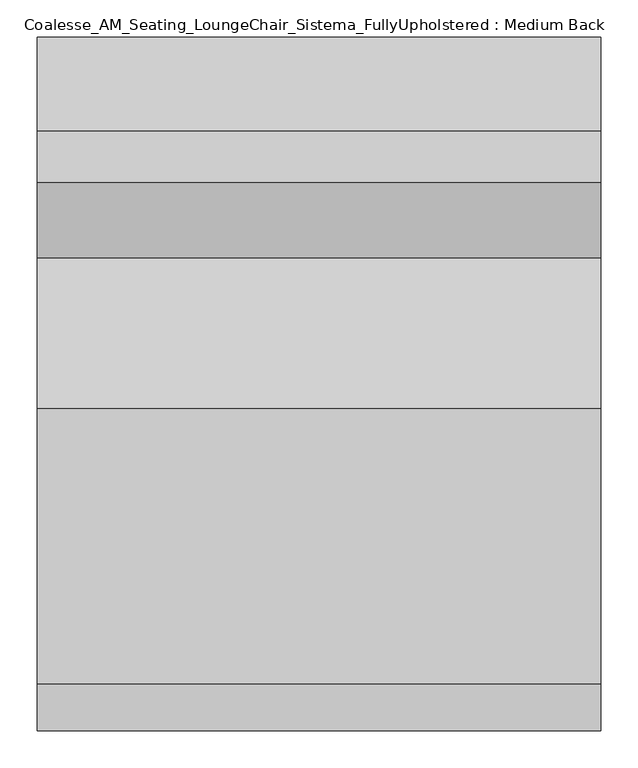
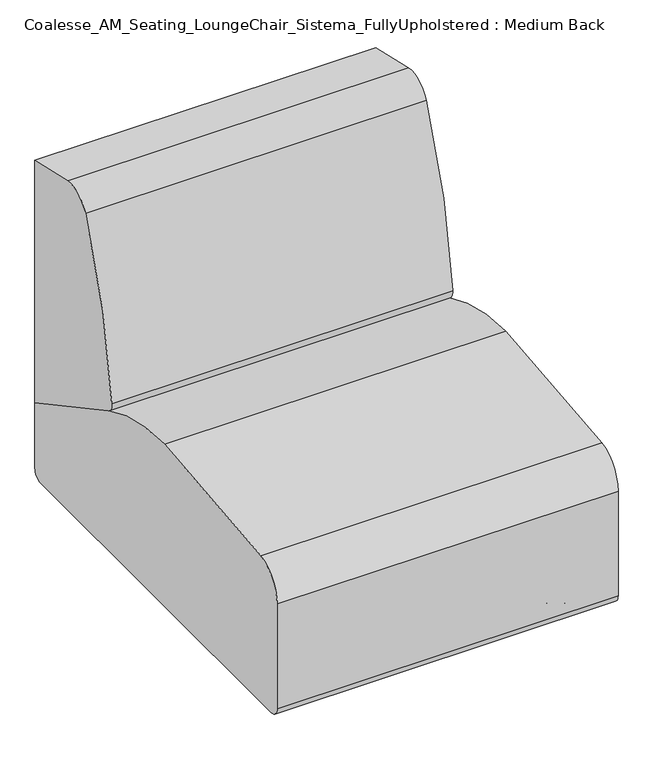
"""IFC4 building model written with IfcOpenShell, lengths in millimetres: furniture geometry, Coalesse_AM_Seating_LoungeChair_Sistema_FullyUpholstered : Medium Back."""

from ifc_helpers import new_model, si_unit, point, frame, frame_2d, origin, place, context, project, spatial, polyline, circle_curve, ellipse_curve, trimmed, segment, composite_curve, outline, extrude, source, transform, mapped, element, save
from ifc_brep_helpers import plane_surface, cylinder_surface, revolved_surface, advanced_brep


def coalesse_am_seating_loungechair_sistema_fullyupholstered_44f18496(model_context):
    return source(origin(), model_context, "Body", "SolidModel", [
        advanced_brep(
        [(-269.1276038, 379.5141881, 32.0111214), (-305.4012134, 379.5141881, 32.0111214), (-305.4012134, 379.5141881, 16.5557542), (-269.1276038, 379.5141881, 16.5557542), (-306.6948939, 379.5141881, 14.0167632), (-267.8339233, 379.5141881, 14.0167632), (-311.0668802, 379.5141881, 10.8824382), (-263.4619371, 379.5141881, 10.8824382), (-312.2530965, 379.5141881, 8.4680454), (-262.2757207, 379.5141881, 8.4680454), (-312.2530965, 379.5141881, 3.1081764), (-262.2757207, 379.5141881, 3.1081764), (-308.6567219, 379.5141881, 0.0), (-265.8720953, 379.5141881, 0.0), (-287.2644086, 379.5141881, 0.0), (-287.2644086, 379.5141881, 34.4679682), (-294.3791876, 379.5141881, 34.4679682), (-280.1496296, 379.5141881, 34.4679682), (-294.3791876, 379.5141881, 32.0111214), (-280.1496296, 379.5141881, 32.0111214)],
        [
            (0, 1, circle_curve(frame((-287.2644086, 379.5141881, 32.0111214), z_axis=(0.0, 0.0, -1.0), x_axis=(-1.0, 0.0, 0.0)), 18.1368048)),
            (1, 2),
            (2, 3, circle_curve(frame((-287.2644086, 379.5141881, 16.5557542), z_axis=(0.0, 0.0, 1.0), x_axis=(-1.0, 0.0, 0.0)), 18.1368048)),
            (3, 0),
            (1, 0, circle_curve(frame((-287.2644086, 379.5141881, 32.0111214), z_axis=(0.0, 0.0, -1.0), x_axis=(-1.0, 0.0, 0.0)), 18.1368048)),
            (3, 2, circle_curve(frame((-287.2644086, 379.5141881, 16.5557542), z_axis=(0.0, 0.0, 1.0), x_axis=(-1.0, 0.0, 0.0)), 18.1368048)),
            (2, 4),
            (4, 5, circle_curve(frame((-287.2644086, 379.5141881, 14.0167632), z_axis=(0.0, 0.0, 1.0), x_axis=(-1.0, 0.0, 0.0)), 19.4304853)),
            (5, 3),
            (5, 4, circle_curve(frame((-287.2644086, 379.5141881, 14.0167632), z_axis=(0.0, 0.0, 1.0), x_axis=(-1.0, 0.0, 0.0)), 19.4304853)),
            (4, 6, circle_curve(frame((-264.7129236, 379.5141881, -49.1591113), z_axis=(0.0, -1.0, 0.0), x_axis=(1.0, 0.0, 0.0)), 75.8529957)),
            (6, 7, circle_curve(frame((-287.2644086, 379.5141881, 10.8824382), z_axis=(0.0, 0.0, 1.0), x_axis=(-1.0, 0.0, 0.0)), 23.8024715)),
            (7, 5, circle_curve(frame((-309.8158936, 379.5141881, -49.1591113), z_axis=(0.0, -1.0, 0.0), x_axis=(-1.0, 0.0, 0.0)), 75.8529957)),
            (7, 6, circle_curve(frame((-287.2644086, 379.5141881, 10.8824382), z_axis=(0.0, 0.0, 1.0), x_axis=(-1.0, 0.0, 0.0)), 23.8024715)),
            (6, 8, circle_curve(frame((-309.2028933, 379.5141881, 8.4680454), z_axis=(0.0, -1.0, 0.0), x_axis=(1.0, 0.0, 0.0)), 3.0502032)),
            (8, 9, circle_curve(frame((-287.2644086, 379.5141881, 8.4680454), z_axis=(0.0, 0.0, 1.0), x_axis=(-1.0, 0.0, 0.0)), 24.9886879)),
            (9, 7, circle_curve(frame((-265.3259239, 379.5141881, 8.4680454), z_axis=(0.0, -1.0, 0.0), x_axis=(-1.0, 0.0, 0.0)), 3.0502032)),
            (9, 8, circle_curve(frame((-287.2644086, 379.5141881, 8.4680454), z_axis=(0.0, 0.0, 1.0), x_axis=(-1.0, 0.0, 0.0)), 24.9886879)),
            (8, 10),
            (10, 11, circle_curve(frame((-287.2644086, 379.5141881, 3.1081764), z_axis=(0.0, 0.0, 1.0), x_axis=(-1.0, 0.0, 0.0)), 24.9886879)),
            (11, 9),
            (11, 10, circle_curve(frame((-287.2644086, 379.5141881, 3.1081764), z_axis=(0.0, 0.0, 1.0), x_axis=(-1.0, 0.0, 0.0)), 24.9886879)),
            (10, 12, circle_curve(frame((-308.6567219, 379.5141881, 3.634715), z_axis=(0.0, -1.0, 0.0), x_axis=(1.0, 0.0, 0.0)), 3.634715)),
            (12, 13, circle_curve(frame((-287.2644086, 379.5141881, 0.0), z_axis=(0.0, 0.0, 1.0), x_axis=(-1.0, 0.0, 0.0)), 21.3923133)),
            (13, 11, circle_curve(frame((-265.8720953, 379.5141881, 3.634715), z_axis=(0.0, -1.0, 0.0), x_axis=(-1.0, 0.0, 0.0)), 3.634715)),
            (13, 12, circle_curve(frame((-287.2644086, 379.5141881, 0.0), z_axis=(0.0, 0.0, 1.0), x_axis=(-1.0, 0.0, 0.0)), 21.3923133)),
            (12, 14),
            (14, 13),
            (15, 16),
            (16, 17, circle_curve(frame((-287.2644086, 379.5141881, 34.4679682), z_axis=(0.0, 0.0, 1.0), x_axis=(-1.0, 0.0, 0.0)), 7.114779)),
            (17, 15),
            (17, 16, circle_curve(frame((-287.2644086, 379.5141881, 34.4679682), z_axis=(0.0, 0.0, 1.0), x_axis=(-1.0, 0.0, 0.0)), 7.114779)),
            (16, 18),
            (18, 19, circle_curve(frame((-287.2644086, 379.5141881, 32.0111214), z_axis=(0.0, 0.0, 1.0), x_axis=(-1.0, 0.0, 0.0)), 7.114779)),
            (19, 17),
            (19, 18, circle_curve(frame((-287.2644086, 379.5141881, 32.0111214), z_axis=(0.0, 0.0, 1.0), x_axis=(-1.0, 0.0, 0.0)), 7.114779)),
            (18, 1),
            (0, 19),
        ],
        [
            cylinder_surface(frame((-287.2644086, 379.5141881, 22.0491407), z_axis=(0.0, 0.0, 1.0), x_axis=(-1.0, 0.0, 0.0)), 18.1368048),
            revolved_surface(polyline([(-306.6948939, 379.5141881, 14.0167632), (-305.4012134, 379.5141881, 16.5557542)]), (-287.2644086, 379.5141881, 22.0491407), (0.0, 0.0, 1.0)),
            revolved_surface(trimmed(ellipse_curve(frame((-264.7129236, 379.5141881, -49.1591113), z_axis=(0.0, 1.0, 0.0), x_axis=(1.0, 0.0, 0.0)), 75.8529957, 75.8529957), [point((-311.0668802, 379.5141881, 10.8824382))], [point((-306.6948939, 379.5141881, 14.0167632))], True, "CARTESIAN"), (-287.2644086, 379.5141881, 22.0491407), (0.0, 0.0, 1.0)),
            revolved_surface(trimmed(ellipse_curve(frame((-309.2028933, 379.5141881, 8.4680454), z_axis=(0.0, 1.0, 0.0), x_axis=(1.0, 0.0, 0.0)), 3.0502032, 3.0502032), [point((-312.2530965, 379.5141881, 8.4680454))], [point((-311.0668802, 379.5141881, 10.8824382))], True, "CARTESIAN"), (-287.2644086, 379.5141881, 22.0491407), (0.0, 0.0, 1.0)),
            cylinder_surface(frame((-287.2644086, 379.5141881, 22.0491407), z_axis=(0.0, 0.0, 1.0), x_axis=(-1.0, 0.0, 0.0)), 24.9886879),
            revolved_surface(trimmed(ellipse_curve(frame((-308.6567219, 379.5141881, 3.634715), z_axis=(0.0, 1.0, 0.0), x_axis=(1.0, 0.0, 0.0)), 3.634715, 3.634715), [point((-308.6567219, 379.5141881, 0.0))], [point((-312.2530965, 379.5141881, 3.1081764))], True, "CARTESIAN"), (-287.2644086, 379.5141881, 22.0491407), (0.0, 0.0, 1.0)),
            plane_surface(frame((-287.2644086, 379.5141881, 0.0), z_axis=(0.0, 0.0, -1.0), x_axis=(-1.0, 0.0, 0.0))),
            plane_surface(frame((-287.2644086, 379.5141881, 34.4679682), z_axis=(0.0, 0.0, 1.0), x_axis=(-1.0, 0.0, 0.0))),
            cylinder_surface(frame((-287.2644086, 379.5141881, 22.0491407), z_axis=(0.0, 0.0, 1.0), x_axis=(-1.0, 0.0, 0.0)), 7.114779),
            plane_surface(frame((-287.2644086, 379.5141881, 32.0111214), z_axis=(0.0, 0.0, 1.0), x_axis=(-1.0, 0.0, 0.0))),
        ],
        [
            (0, [[1, 2, 3, 4]]),
            (0, [[5, -4, 6, -2]]),
            (1, [[-3, 7, 8, 9]]),
            (1, [[-6, -9, 10, -7]]),
            (2, [[-8, 11, 12, 13]]),
            (2, [[-10, -13, 14, -11]]),
            (3, [[-12, 15, 16, 17]]),
            (3, [[-14, -17, 18, -15]]),
            (4, [[-16, 19, 20, 21]]),
            (4, [[-18, -21, 22, -19]]),
            (5, [[-20, 23, 24, 25]]),
            (5, [[-22, -25, 26, -23]]),
            (6, [[-24, 27, 28]]),
            (6, [[-26, -28, -27]]),
            (7, [[29, 30, 31]]),
            (7, [[-31, 32, -29]]),
            (8, [[-30, 33, 34, 35]]),
            (8, [[-32, -35, 36, -33]]),
            (9, [[-34, 37, -1, 38]]),
            (9, [[-36, -38, -5, -37]]),
        ],
    ),
        advanced_brep(
        [(269.1276038, 379.5141881, 16.5557542), (305.4012134, 379.5141881, 16.5557542), (305.4012134, 379.5141881, 32.0111214), (269.1276038, 379.5141881, 32.0111214), (267.8339233, 379.5141881, 14.0167632), (306.6948939, 379.5141881, 14.0167632), (263.4619371, 379.5141881, 10.8824382), (311.0668802, 379.5141881, 10.8824382), (262.2757207, 379.5141881, 8.4680454), (312.2530965, 379.5141881, 8.4680454), (262.2757207, 379.5141881, 3.1081764), (312.2530965, 379.5141881, 3.1081764), (265.8720953, 379.5141881, 0.0), (308.6567219, 379.5141881, 0.0), (287.2644086, 379.5141881, 0.0), (280.1496296, 379.5141881, 34.4679682), (294.3791876, 379.5141881, 34.4679682), (287.2644086, 379.5141881, 34.4679682), (280.1496296, 379.5141881, 32.0111214), (294.3791876, 379.5141881, 32.0111214)],
        [
            (0, 1, circle_curve(frame((287.2644086, 379.5141881, 16.5557542), z_axis=(0.0, 0.0, 1.0), x_axis=(1.0, 0.0, 0.0)), 18.1368048)),
            (1, 2),
            (2, 3, circle_curve(frame((287.2644086, 379.5141881, 32.0111214), z_axis=(0.0, 0.0, -1.0), x_axis=(1.0, 0.0, 0.0)), 18.1368048)),
            (3, 0),
            (1, 0, circle_curve(frame((287.2644086, 379.5141881, 16.5557542), z_axis=(0.0, 0.0, 1.0), x_axis=(1.0, 0.0, 0.0)), 18.1368048)),
            (3, 2, circle_curve(frame((287.2644086, 379.5141881, 32.0111214), z_axis=(0.0, 0.0, -1.0), x_axis=(1.0, 0.0, 0.0)), 18.1368048)),
            (4, 5, circle_curve(frame((287.2644086, 379.5141881, 14.0167632), z_axis=(0.0, 0.0, 1.0), x_axis=(1.0, 0.0, 0.0)), 19.4304853)),
            (5, 1),
            (0, 4),
            (5, 4, circle_curve(frame((287.2644086, 379.5141881, 14.0167632), z_axis=(0.0, 0.0, 1.0), x_axis=(1.0, 0.0, 0.0)), 19.4304853)),
            (6, 7, circle_curve(frame((287.2644086, 379.5141881, 10.8824382), z_axis=(0.0, 0.0, 1.0), x_axis=(1.0, 0.0, 0.0)), 23.8024715)),
            (7, 5, circle_curve(frame((264.7129236, 379.5141881, -49.1591113), z_axis=(0.0, -1.0, 0.0), x_axis=(-1.0, 0.0, 0.0)), 75.8529957)),
            (4, 6, circle_curve(frame((309.8158936, 379.5141881, -49.1591113), z_axis=(0.0, -1.0, 0.0), x_axis=(1.0, 0.0, 0.0)), 75.8529957)),
            (7, 6, circle_curve(frame((287.2644086, 379.5141881, 10.8824382), z_axis=(0.0, 0.0, 1.0), x_axis=(1.0, 0.0, 0.0)), 23.8024715)),
            (8, 9, circle_curve(frame((287.2644086, 379.5141881, 8.4680454), z_axis=(0.0, 0.0, 1.0), x_axis=(1.0, 0.0, 0.0)), 24.9886879)),
            (9, 7, circle_curve(frame((309.2028933, 379.5141881, 8.4680454), z_axis=(0.0, -1.0, 0.0), x_axis=(-1.0, 0.0, 0.0)), 3.0502032)),
            (6, 8, circle_curve(frame((265.3259239, 379.5141881, 8.4680454), z_axis=(0.0, -1.0, 0.0), x_axis=(1.0, 0.0, 0.0)), 3.0502032)),
            (9, 8, circle_curve(frame((287.2644086, 379.5141881, 8.4680454), z_axis=(0.0, 0.0, 1.0), x_axis=(1.0, 0.0, 0.0)), 24.9886879)),
            (10, 11, circle_curve(frame((287.2644086, 379.5141881, 3.1081764), z_axis=(0.0, 0.0, 1.0), x_axis=(1.0, 0.0, 0.0)), 24.9886879)),
            (11, 9),
            (8, 10),
            (11, 10, circle_curve(frame((287.2644086, 379.5141881, 3.1081764), z_axis=(0.0, 0.0, 1.0), x_axis=(1.0, 0.0, 0.0)), 24.9886879)),
            (12, 13, circle_curve(frame((287.2644086, 379.5141881, 0.0), z_axis=(0.0, 0.0, 1.0), x_axis=(1.0, 0.0, 0.0)), 21.3923133)),
            (13, 11, circle_curve(frame((308.6567219, 379.5141881, 3.634715), z_axis=(0.0, -1.0, 0.0), x_axis=(-1.0, 0.0, 0.0)), 3.634715)),
            (10, 12, circle_curve(frame((265.8720953, 379.5141881, 3.634715), z_axis=(0.0, -1.0, 0.0), x_axis=(1.0, 0.0, 0.0)), 3.634715)),
            (13, 12, circle_curve(frame((287.2644086, 379.5141881, 0.0), z_axis=(0.0, 0.0, 1.0), x_axis=(1.0, 0.0, 0.0)), 21.3923133)),
            (14, 13),
            (12, 14),
            (15, 16, circle_curve(frame((287.2644086, 379.5141881, 34.4679682), z_axis=(0.0, 0.0, 1.0), x_axis=(1.0, 0.0, 0.0)), 7.114779)),
            (16, 17),
            (17, 15),
            (16, 15, circle_curve(frame((287.2644086, 379.5141881, 34.4679682), z_axis=(0.0, 0.0, 1.0), x_axis=(1.0, 0.0, 0.0)), 7.114779)),
            (18, 19, circle_curve(frame((287.2644086, 379.5141881, 32.0111214), z_axis=(0.0, 0.0, 1.0), x_axis=(1.0, 0.0, 0.0)), 7.114779)),
            (19, 16),
            (15, 18),
            (19, 18, circle_curve(frame((287.2644086, 379.5141881, 32.0111214), z_axis=(0.0, 0.0, 1.0), x_axis=(1.0, 0.0, 0.0)), 7.114779)),
            (2, 19),
            (18, 3),
        ],
        [
            cylinder_surface(frame((287.2644086, 379.5141881, 22.0491407), z_axis=(0.0, 0.0, -1.0), x_axis=(1.0, 0.0, 0.0)), 18.1368048),
            revolved_surface(polyline([(305.4012134, 379.5141881, 16.5557542), (306.6948939, 379.5141881, 14.0167632)]), (287.2644086, 379.5141881, 22.0491407), (0.0, 0.0, -1.0)),
            revolved_surface(trimmed(ellipse_curve(frame((264.7129236, 379.5141881, -49.1591113), z_axis=(0.0, 1.0, 0.0), x_axis=(-1.0, 0.0, 0.0)), 75.8529957, 75.8529957), [point((306.6948939, 379.5141881, 14.0167632))], [point((311.0668802, 379.5141881, 10.8824382))], True, "CARTESIAN"), (287.2644086, 379.5141881, 22.0491407), (0.0, 0.0, -1.0)),
            revolved_surface(trimmed(ellipse_curve(frame((309.2028933, 379.5141881, 8.4680454), z_axis=(0.0, 1.0, 0.0), x_axis=(-1.0, 0.0, 0.0)), 3.0502032, 3.0502032), [point((311.0668802, 379.5141881, 10.8824382))], [point((312.2530965, 379.5141881, 8.4680454))], True, "CARTESIAN"), (287.2644086, 379.5141881, 22.0491407), (0.0, 0.0, -1.0)),
            cylinder_surface(frame((287.2644086, 379.5141881, 22.0491407), z_axis=(0.0, 0.0, -1.0), x_axis=(1.0, 0.0, 0.0)), 24.9886879),
            revolved_surface(trimmed(ellipse_curve(frame((308.6567219, 379.5141881, 3.634715), z_axis=(0.0, 1.0, 0.0), x_axis=(-1.0, 0.0, 0.0)), 3.634715, 3.634715), [point((312.2530965, 379.5141881, 3.1081764))], [point((308.6567219, 379.5141881, 0.0))], True, "CARTESIAN"), (287.2644086, 379.5141881, 22.0491407), (0.0, 0.0, -1.0)),
            plane_surface(frame((287.2644086, 379.5141881, 0.0), z_axis=(0.0, 0.0, -1.0), x_axis=(1.0, 0.0, 0.0))),
            plane_surface(frame((287.2644086, 379.5141881, 34.4679682), z_axis=(0.0, 0.0, 1.0), x_axis=(1.0, 0.0, 0.0))),
            cylinder_surface(frame((287.2644086, 379.5141881, 22.0491407), z_axis=(0.0, 0.0, -1.0), x_axis=(1.0, 0.0, 0.0)), 7.114779),
            plane_surface(frame((287.2644086, 379.5141881, 32.0111214), z_axis=(0.0, 0.0, 1.0), x_axis=(1.0, 0.0, 0.0))),
        ],
        [
            (0, [[1, 2, 3, 4]]),
            (0, [[5, -4, 6, -2]]),
            (1, [[7, 8, -1, 9]]),
            (1, [[10, -9, -5, -8]]),
            (2, [[11, 12, -7, 13]]),
            (2, [[14, -13, -10, -12]]),
            (3, [[15, 16, -11, 17]]),
            (3, [[18, -17, -14, -16]]),
            (4, [[19, 20, -15, 21]]),
            (4, [[22, -21, -18, -20]]),
            (5, [[23, 24, -19, 25]]),
            (5, [[26, -25, -22, -24]]),
            (6, [[27, -23, 28]]),
            (6, [[-28, -26, -27]]),
            (7, [[29, 30, 31]]),
            (7, [[32, -31, -30]]),
            (8, [[33, 34, -29, 35]]),
            (8, [[36, -35, -32, -34]]),
            (9, [[-3, 37, -33, 38]]),
            (9, [[-6, -38, -36, -37]]),
        ],
    ),
        advanced_brep(
        [(269.1276038, -379.5141881, 32.0111214), (305.4012134, -379.5141881, 32.0111214), (305.4012134, -379.5141881, 16.5557542), (269.1276038, -379.5141881, 16.5557542), (306.6948939, -379.5141881, 14.0167632), (267.8339233, -379.5141881, 14.0167632), (311.0668802, -379.5141881, 10.8824382), (263.4619371, -379.5141881, 10.8824382), (312.2530965, -379.5141881, 8.4680454), (262.2757207, -379.5141881, 8.4680454), (312.2530965, -379.5141881, 3.1081764), (262.2757207, -379.5141881, 3.1081764), (308.6567219, -379.5141881, 0.0), (265.8720953, -379.5141881, 0.0), (287.2644086, -379.5141881, 0.0), (287.2644086, -379.5141881, 34.4679682), (294.3791876, -379.5141881, 34.4679682), (280.1496296, -379.5141881, 34.4679682), (294.3791876, -379.5141881, 32.0111214), (280.1496296, -379.5141881, 32.0111214)],
        [
            (0, 1, circle_curve(frame((287.2644086, -379.5141881, 32.0111214), z_axis=(0.0, 0.0, -1.0), x_axis=(1.0, 0.0, 0.0)), 18.1368048)),
            (1, 2),
            (2, 3, circle_curve(frame((287.2644086, -379.5141881, 16.5557542), z_axis=(0.0, 0.0, 1.0), x_axis=(1.0, 0.0, 0.0)), 18.1368048)),
            (3, 0),
            (1, 0, circle_curve(frame((287.2644086, -379.5141881, 32.0111214), z_axis=(0.0, 0.0, -1.0), x_axis=(1.0, 0.0, 0.0)), 18.1368048)),
            (3, 2, circle_curve(frame((287.2644086, -379.5141881, 16.5557542), z_axis=(0.0, 0.0, 1.0), x_axis=(1.0, 0.0, 0.0)), 18.1368048)),
            (2, 4),
            (4, 5, circle_curve(frame((287.2644086, -379.5141881, 14.0167632), z_axis=(0.0, 0.0, 1.0), x_axis=(1.0, 0.0, 0.0)), 19.4304853)),
            (5, 3),
            (5, 4, circle_curve(frame((287.2644086, -379.5141881, 14.0167632), z_axis=(0.0, 0.0, 1.0), x_axis=(1.0, 0.0, 0.0)), 19.4304853)),
            (4, 6, circle_curve(frame((264.7129236, -379.5141881, -49.1591113), z_axis=(0.0, 1.0, 0.0), x_axis=(-1.0, 0.0, 0.0)), 75.8529957)),
            (6, 7, circle_curve(frame((287.2644086, -379.5141881, 10.8824382), z_axis=(0.0, 0.0, 1.0), x_axis=(1.0, 0.0, 0.0)), 23.8024715)),
            (7, 5, circle_curve(frame((309.8158936, -379.5141881, -49.1591113), z_axis=(0.0, 1.0, 0.0), x_axis=(1.0, 0.0, 0.0)), 75.8529957)),
            (7, 6, circle_curve(frame((287.2644086, -379.5141881, 10.8824382), z_axis=(0.0, 0.0, 1.0), x_axis=(1.0, 0.0, 0.0)), 23.8024715)),
            (6, 8, circle_curve(frame((309.2028933, -379.5141881, 8.4680454), z_axis=(0.0, 1.0, 0.0), x_axis=(-1.0, 0.0, 0.0)), 3.0502032)),
            (8, 9, circle_curve(frame((287.2644086, -379.5141881, 8.4680454), z_axis=(0.0, 0.0, 1.0), x_axis=(1.0, 0.0, 0.0)), 24.9886879)),
            (9, 7, circle_curve(frame((265.3259239, -379.5141881, 8.4680454), z_axis=(0.0, 1.0, 0.0), x_axis=(1.0, 0.0, 0.0)), 3.0502032)),
            (9, 8, circle_curve(frame((287.2644086, -379.5141881, 8.4680454), z_axis=(0.0, 0.0, 1.0), x_axis=(1.0, 0.0, 0.0)), 24.9886879)),
            (8, 10),
            (10, 11, circle_curve(frame((287.2644086, -379.5141881, 3.1081764), z_axis=(0.0, 0.0, 1.0), x_axis=(1.0, 0.0, 0.0)), 24.9886879)),
            (11, 9),
            (11, 10, circle_curve(frame((287.2644086, -379.5141881, 3.1081764), z_axis=(0.0, 0.0, 1.0), x_axis=(1.0, 0.0, 0.0)), 24.9886879)),
            (10, 12, circle_curve(frame((308.6567219, -379.5141881, 3.634715), z_axis=(0.0, 1.0, 0.0), x_axis=(-1.0, 0.0, 0.0)), 3.634715)),
            (12, 13, circle_curve(frame((287.2644086, -379.5141881, 0.0), z_axis=(0.0, 0.0, 1.0), x_axis=(1.0, 0.0, 0.0)), 21.3923133)),
            (13, 11, circle_curve(frame((265.8720953, -379.5141881, 3.634715), z_axis=(0.0, 1.0, 0.0), x_axis=(1.0, 0.0, 0.0)), 3.634715)),
            (13, 12, circle_curve(frame((287.2644086, -379.5141881, 0.0), z_axis=(0.0, 0.0, 1.0), x_axis=(1.0, 0.0, 0.0)), 21.3923133)),
            (12, 14),
            (14, 13),
            (15, 16),
            (16, 17, circle_curve(frame((287.2644086, -379.5141881, 34.4679682), z_axis=(0.0, 0.0, 1.0), x_axis=(1.0, 0.0, 0.0)), 7.114779)),
            (17, 15),
            (17, 16, circle_curve(frame((287.2644086, -379.5141881, 34.4679682), z_axis=(0.0, 0.0, 1.0), x_axis=(1.0, 0.0, 0.0)), 7.114779)),
            (16, 18),
            (18, 19, circle_curve(frame((287.2644086, -379.5141881, 32.0111214), z_axis=(0.0, 0.0, 1.0), x_axis=(1.0, 0.0, 0.0)), 7.114779)),
            (19, 17),
            (19, 18, circle_curve(frame((287.2644086, -379.5141881, 32.0111214), z_axis=(0.0, 0.0, 1.0), x_axis=(1.0, 0.0, 0.0)), 7.114779)),
            (18, 1),
            (0, 19),
        ],
        [
            cylinder_surface(frame((287.2644086, -379.5141881, 22.0491407), z_axis=(0.0, 0.0, 1.0), x_axis=(1.0, 0.0, 0.0)), 18.1368048),
            revolved_surface(polyline([(306.6948939, -379.5141881, 14.0167632), (305.4012134, -379.5141881, 16.5557542)]), (287.2644086, -379.5141881, 22.0491407), (0.0, 0.0, 1.0)),
            revolved_surface(trimmed(ellipse_curve(frame((264.7129236, -379.5141881, -49.1591113), z_axis=(0.0, -1.0, 0.0), x_axis=(-1.0, 0.0, 0.0)), 75.8529957, 75.8529957), [point((311.0668802, -379.5141881, 10.8824382))], [point((306.6948939, -379.5141881, 14.0167632))], True, "CARTESIAN"), (287.2644086, -379.5141881, 22.0491407), (0.0, 0.0, 1.0)),
            revolved_surface(trimmed(ellipse_curve(frame((309.2028933, -379.5141881, 8.4680454), z_axis=(0.0, -1.0, 0.0), x_axis=(-1.0, 0.0, 0.0)), 3.0502032, 3.0502032), [point((312.2530965, -379.5141881, 8.4680454))], [point((311.0668802, -379.5141881, 10.8824382))], True, "CARTESIAN"), (287.2644086, -379.5141881, 22.0491407), (0.0, 0.0, 1.0)),
            cylinder_surface(frame((287.2644086, -379.5141881, 22.0491407), z_axis=(0.0, 0.0, 1.0), x_axis=(1.0, 0.0, 0.0)), 24.9886879),
            revolved_surface(trimmed(ellipse_curve(frame((308.6567219, -379.5141881, 3.634715), z_axis=(0.0, -1.0, 0.0), x_axis=(-1.0, 0.0, 0.0)), 3.634715, 3.634715), [point((308.6567219, -379.5141881, 0.0))], [point((312.2530965, -379.5141881, 3.1081764))], True, "CARTESIAN"), (287.2644086, -379.5141881, 22.0491407), (0.0, 0.0, 1.0)),
            plane_surface(frame((287.2644086, -379.5141881, 0.0), z_axis=(0.0, 0.0, -1.0), x_axis=(1.0, 0.0, 0.0))),
            plane_surface(frame((287.2644086, -379.5141881, 34.4679682), z_axis=(0.0, 0.0, 1.0), x_axis=(1.0, 0.0, 0.0))),
            cylinder_surface(frame((287.2644086, -379.5141881, 22.0491407), z_axis=(0.0, 0.0, 1.0), x_axis=(1.0, 0.0, 0.0)), 7.114779),
            plane_surface(frame((287.2644086, -379.5141881, 32.0111214), z_axis=(0.0, 0.0, 1.0), x_axis=(1.0, 0.0, 0.0))),
        ],
        [
            (0, [[1, 2, 3, 4]]),
            (0, [[5, -4, 6, -2]]),
            (1, [[-3, 7, 8, 9]]),
            (1, [[-6, -9, 10, -7]]),
            (2, [[-8, 11, 12, 13]]),
            (2, [[-10, -13, 14, -11]]),
            (3, [[-12, 15, 16, 17]]),
            (3, [[-14, -17, 18, -15]]),
            (4, [[-16, 19, 20, 21]]),
            (4, [[-18, -21, 22, -19]]),
            (5, [[-20, 23, 24, 25]]),
            (5, [[-22, -25, 26, -23]]),
            (6, [[-24, 27, 28]]),
            (6, [[-26, -28, -27]]),
            (7, [[29, 30, 31]]),
            (7, [[-31, 32, -29]]),
            (8, [[-30, 33, 34, 35]]),
            (8, [[-32, -35, 36, -33]]),
            (9, [[-34, 37, -1, 38]]),
            (9, [[-36, -38, -5, -37]]),
        ],
    ),
        advanced_brep(
        [(-269.1276038, -379.5141881, 16.5557542), (-305.4012134, -379.5141881, 16.5557542), (-305.4012134, -379.5141881, 32.0111214), (-269.1276038, -379.5141881, 32.0111214), (-267.8339233, -379.5141881, 14.0167632), (-306.6948939, -379.5141881, 14.0167632), (-263.4619371, -379.5141881, 10.8824382), (-311.0668802, -379.5141881, 10.8824382), (-262.2757207, -379.5141881, 8.4680454), (-312.2530965, -379.5141881, 8.4680454), (-262.2757207, -379.5141881, 3.1081764), (-312.2530965, -379.5141881, 3.1081764), (-265.8720953, -379.5141881, 0.0), (-308.6567219, -379.5141881, 0.0), (-287.2644086, -379.5141881, 0.0), (-280.1496296, -379.5141881, 34.4679682), (-294.3791876, -379.5141881, 34.4679682), (-287.2644086, -379.5141881, 34.4679682), (-280.1496296, -379.5141881, 32.0111214), (-294.3791876, -379.5141881, 32.0111214)],
        [
            (0, 1, circle_curve(frame((-287.2644086, -379.5141881, 16.5557542), z_axis=(0.0, 0.0, 1.0), x_axis=(-1.0, 0.0, 0.0)), 18.1368048)),
            (1, 2),
            (2, 3, circle_curve(frame((-287.2644086, -379.5141881, 32.0111214), z_axis=(0.0, 0.0, -1.0), x_axis=(-1.0, 0.0, 0.0)), 18.1368048)),
            (3, 0),
            (1, 0, circle_curve(frame((-287.2644086, -379.5141881, 16.5557542), z_axis=(0.0, 0.0, 1.0), x_axis=(-1.0, 0.0, 0.0)), 18.1368048)),
            (3, 2, circle_curve(frame((-287.2644086, -379.5141881, 32.0111214), z_axis=(0.0, 0.0, -1.0), x_axis=(-1.0, 0.0, 0.0)), 18.1368048)),
            (4, 5, circle_curve(frame((-287.2644086, -379.5141881, 14.0167632), z_axis=(0.0, 0.0, 1.0), x_axis=(-1.0, 0.0, 0.0)), 19.4304853)),
            (5, 1),
            (0, 4),
            (5, 4, circle_curve(frame((-287.2644086, -379.5141881, 14.0167632), z_axis=(0.0, 0.0, 1.0), x_axis=(-1.0, 0.0, 0.0)), 19.4304853)),
            (6, 7, circle_curve(frame((-287.2644086, -379.5141881, 10.8824382), z_axis=(0.0, 0.0, 1.0), x_axis=(-1.0, 0.0, 0.0)), 23.8024715)),
            (7, 5, circle_curve(frame((-264.7129236, -379.5141881, -49.1591113), z_axis=(0.0, 1.0, 0.0), x_axis=(1.0, 0.0, 0.0)), 75.8529957)),
            (4, 6, circle_curve(frame((-309.8158936, -379.5141881, -49.1591113), z_axis=(0.0, 1.0, 0.0), x_axis=(-1.0, 0.0, 0.0)), 75.8529957)),
            (7, 6, circle_curve(frame((-287.2644086, -379.5141881, 10.8824382), z_axis=(0.0, 0.0, 1.0), x_axis=(-1.0, 0.0, 0.0)), 23.8024715)),
            (8, 9, circle_curve(frame((-287.2644086, -379.5141881, 8.4680454), z_axis=(0.0, 0.0, 1.0), x_axis=(-1.0, 0.0, 0.0)), 24.9886879)),
            (9, 7, circle_curve(frame((-309.2028933, -379.5141881, 8.4680454), z_axis=(0.0, 1.0, 0.0), x_axis=(1.0, 0.0, 0.0)), 3.0502032)),
            (6, 8, circle_curve(frame((-265.3259239, -379.5141881, 8.4680454), z_axis=(0.0, 1.0, 0.0), x_axis=(-1.0, 0.0, 0.0)), 3.0502032)),
            (9, 8, circle_curve(frame((-287.2644086, -379.5141881, 8.4680454), z_axis=(0.0, 0.0, 1.0), x_axis=(-1.0, 0.0, 0.0)), 24.9886879)),
            (10, 11, circle_curve(frame((-287.2644086, -379.5141881, 3.1081764), z_axis=(0.0, 0.0, 1.0), x_axis=(-1.0, 0.0, 0.0)), 24.9886879)),
            (11, 9),
            (8, 10),
            (11, 10, circle_curve(frame((-287.2644086, -379.5141881, 3.1081764), z_axis=(0.0, 0.0, 1.0), x_axis=(-1.0, 0.0, 0.0)), 24.9886879)),
            (12, 13, circle_curve(frame((-287.2644086, -379.5141881, 0.0), z_axis=(0.0, 0.0, 1.0), x_axis=(-1.0, 0.0, 0.0)), 21.3923133)),
            (13, 11, circle_curve(frame((-308.6567219, -379.5141881, 3.634715), z_axis=(0.0, 1.0, 0.0), x_axis=(1.0, 0.0, 0.0)), 3.634715)),
            (10, 12, circle_curve(frame((-265.8720953, -379.5141881, 3.634715), z_axis=(0.0, 1.0, 0.0), x_axis=(-1.0, 0.0, 0.0)), 3.634715)),
            (13, 12, circle_curve(frame((-287.2644086, -379.5141881, 0.0), z_axis=(0.0, 0.0, 1.0), x_axis=(-1.0, 0.0, 0.0)), 21.3923133)),
            (14, 13),
            (12, 14),
            (15, 16, circle_curve(frame((-287.2644086, -379.5141881, 34.4679682), z_axis=(0.0, 0.0, 1.0), x_axis=(-1.0, 0.0, 0.0)), 7.114779)),
            (16, 17),
            (17, 15),
            (16, 15, circle_curve(frame((-287.2644086, -379.5141881, 34.4679682), z_axis=(0.0, 0.0, 1.0), x_axis=(-1.0, 0.0, 0.0)), 7.114779)),
            (18, 19, circle_curve(frame((-287.2644086, -379.5141881, 32.0111214), z_axis=(0.0, 0.0, 1.0), x_axis=(-1.0, 0.0, 0.0)), 7.114779)),
            (19, 16),
            (15, 18),
            (19, 18, circle_curve(frame((-287.2644086, -379.5141881, 32.0111214), z_axis=(0.0, 0.0, 1.0), x_axis=(-1.0, 0.0, 0.0)), 7.114779)),
            (2, 19),
            (18, 3),
        ],
        [
            cylinder_surface(frame((-287.2644086, -379.5141881, 22.0491407), z_axis=(0.0, 0.0, -1.0), x_axis=(-1.0, 0.0, 0.0)), 18.1368048),
            revolved_surface(polyline([(-305.4012134, -379.5141881, 16.5557542), (-306.6948939, -379.5141881, 14.0167632)]), (-287.2644086, -379.5141881, 22.0491407), (0.0, 0.0, -1.0)),
            revolved_surface(trimmed(ellipse_curve(frame((-264.7129236, -379.5141881, -49.1591113), z_axis=(0.0, -1.0, 0.0), x_axis=(1.0, 0.0, 0.0)), 75.8529957, 75.8529957), [point((-306.6948939, -379.5141881, 14.0167632))], [point((-311.0668802, -379.5141881, 10.8824382))], True, "CARTESIAN"), (-287.2644086, -379.5141881, 22.0491407), (0.0, 0.0, -1.0)),
            revolved_surface(trimmed(ellipse_curve(frame((-309.2028933, -379.5141881, 8.4680454), z_axis=(0.0, -1.0, 0.0), x_axis=(1.0, 0.0, 0.0)), 3.0502032, 3.0502032), [point((-311.0668802, -379.5141881, 10.8824382))], [point((-312.2530965, -379.5141881, 8.4680454))], True, "CARTESIAN"), (-287.2644086, -379.5141881, 22.0491407), (0.0, 0.0, -1.0)),
            cylinder_surface(frame((-287.2644086, -379.5141881, 22.0491407), z_axis=(0.0, 0.0, -1.0), x_axis=(-1.0, 0.0, 0.0)), 24.9886879),
            revolved_surface(trimmed(ellipse_curve(frame((-308.6567219, -379.5141881, 3.634715), z_axis=(0.0, -1.0, 0.0), x_axis=(1.0, 0.0, 0.0)), 3.634715, 3.634715), [point((-312.2530965, -379.5141881, 3.1081764))], [point((-308.6567219, -379.5141881, 0.0))], True, "CARTESIAN"), (-287.2644086, -379.5141881, 22.0491407), (0.0, 0.0, -1.0)),
            plane_surface(frame((-287.2644086, -379.5141881, 0.0), z_axis=(0.0, 0.0, -1.0), x_axis=(-1.0, 0.0, 0.0))),
            plane_surface(frame((-287.2644086, -379.5141881, 34.4679682), z_axis=(0.0, 0.0, 1.0), x_axis=(-1.0, 0.0, 0.0))),
            cylinder_surface(frame((-287.2644086, -379.5141881, 22.0491407), z_axis=(0.0, 0.0, -1.0), x_axis=(-1.0, 0.0, 0.0)), 7.114779),
            plane_surface(frame((-287.2644086, -379.5141881, 32.0111214), z_axis=(0.0, 0.0, 1.0), x_axis=(-1.0, 0.0, 0.0))),
        ],
        [
            (0, [[1, 2, 3, 4]]),
            (0, [[5, -4, 6, -2]]),
            (1, [[7, 8, -1, 9]]),
            (1, [[10, -9, -5, -8]]),
            (2, [[11, 12, -7, 13]]),
            (2, [[14, -13, -10, -12]]),
            (3, [[15, 16, -11, 17]]),
            (3, [[18, -17, -14, -16]]),
            (4, [[19, 20, -15, 21]]),
            (4, [[22, -21, -18, -20]]),
            (5, [[23, 24, -19, 25]]),
            (5, [[26, -25, -22, -24]]),
            (6, [[27, -23, 28]]),
            (6, [[-28, -26, -27]]),
            (7, [[29, 30, 31]]),
            (7, [[32, -31, -30]]),
            (8, [[33, 34, -29, 35]]),
            (8, [[36, -35, -32, -34]]),
            (9, [[-3, 37, -33, 38]]),
            (9, [[-6, -38, -36, -37]]),
        ],
    ),
        extrude(outline(composite_curve([segment(polyline([(464.6438301, 774.6651718), (464.6438301, 208.8788212), (183.8457951, 360.6719742)]), True, "CONTINUOUS"), segment(trimmed(circle_curve(frame_2d((195.9245701, 383.0161724)), 25.4), [point((183.8457951, 360.6719742))], [point((170.6161698, 385.1713698))], False, "CARTESIAN"), True, "CONTINUOUS"), segment(trimmed(circle_curve(frame_2d((1327.5544182, 286.6495247)), 1161.1256023), [point((170.6161698, 385.1713698))], [point((271.1088001, 768.4537592))], False, "CARTESIAN"), True, "CONTINUOUS"), segment(trimmed(circle_curve(frame_2d((326.5730192, 743.158661)), 60.96), [point((271.1088001, 768.4537592))], [point((339.9143278, 802.6408523))], False, "CARTESIAN"), True, "CONTINUOUS"), segment(polyline([(339.9143278, 802.6408523), (464.6438301, 774.6651718)]), True, "CONTINUOUS")], self_intersect=False)), frame((-374.8034773, 0.0, 0.0), z_axis=(1.0, 0.0, 0.0), x_axis=(0.0, 1.0, 0.0)), (0.0, 0.0, 1.0), 752.2863161),
        extrude(outline(composite_curve([segment(trimmed(circle_curve(frame_2d((-438.9184381, 56.7777814)), 22.352), [point((-438.9184381, 34.4257814))], [point((-461.2704381, 56.7777814))], False, "CARTESIAN"), True, "CONTINUOUS"), segment(polyline([(-461.2704381, 56.7777814), (-461.2704381, 301.4421993)]), True, "CONTINUOUS"), segment(trimmed(circle_curve(frame_2d((-385.0704381, 301.4421993)), 76.2), [point((-461.2704381, 301.4421993))], [point((-398.9277015, 376.3716077))], False, "CARTESIAN"), True, "CONTINUOUS"), segment(trimmed(circle_curve(frame_2d((2.2103559, -1792.6740646)), 2205.8265729), [point((-398.9277015, 376.3716077))], [point((-31.1968175, 412.8995185))], False, "CARTESIAN"), True, "CONTINUOUS"), segment(trimmed(circle_curve(frame_2d((-24.5128424, -28.3829182)), 441.333054), [point((-31.1968175, 412.8995185))], [point((184.5757008, 360.2774035))], False, "CARTESIAN"), True, "CONTINUOUS"), segment(polyline([(184.5757008, 360.2774035), (464.6438301, 208.8788212), (464.6438301, 56.7429806)]), True, "CONTINUOUS"), segment(trimmed(circle_curve(frame_2d((442.3266309, 56.7429806)), 22.3171991), [point((464.6438301, 56.7429806))], [point((442.3266309, 34.4257814))], False, "CARTESIAN"), True, "CONTINUOUS"), segment(polyline([(442.3266309, 34.4257814), (-438.9184381, 34.4257814)]), True, "CONTINUOUS")], self_intersect=False)), frame((-374.8034773, 0.0, 0.0), z_axis=(1.0, 0.0, 0.0), x_axis=(0.0, 1.0, 0.0)), (0.0, 0.0, 1.0), 752.2863161),
    ])


if __name__ == "__main__":
    model = new_model("IFC4")
    model_context = context("Model", 3, world=origin())
    ifc_project = project(units=[si_unit("LENGTHUNIT", "METRE", prefix="MILLI")], contexts=[model_context])
    site = spatial("IfcSite", under=ifc_project)
    building = spatial("IfcBuilding", under=site)
    placement = place(None, origin())
    coalesse_am_seating_loungechair_sistema_fullyupholstered_shape = coalesse_am_seating_loungechair_sistema_fullyupholstered_44f18496(model_context)
    element("IfcFurniture", 1, ObjectType="Coalesse_AM_Seating_LoungeChair_Sistema_FullyUpholstered : Medium Back", at=placement, inside=building, context=model_context, shape_type="MappedRepresentation", body=[
        mapped(coalesse_am_seating_loungechair_sistema_fullyupholstered_shape, transform((0.0, 0.0, 0.0), x_axis=(1.0, 0.0, 0.0), y_axis=(0.0, 1.0, 0.0), z_axis=(0.0, 0.0, 1.0))),
    ])
    save(model, "model.ifc")
